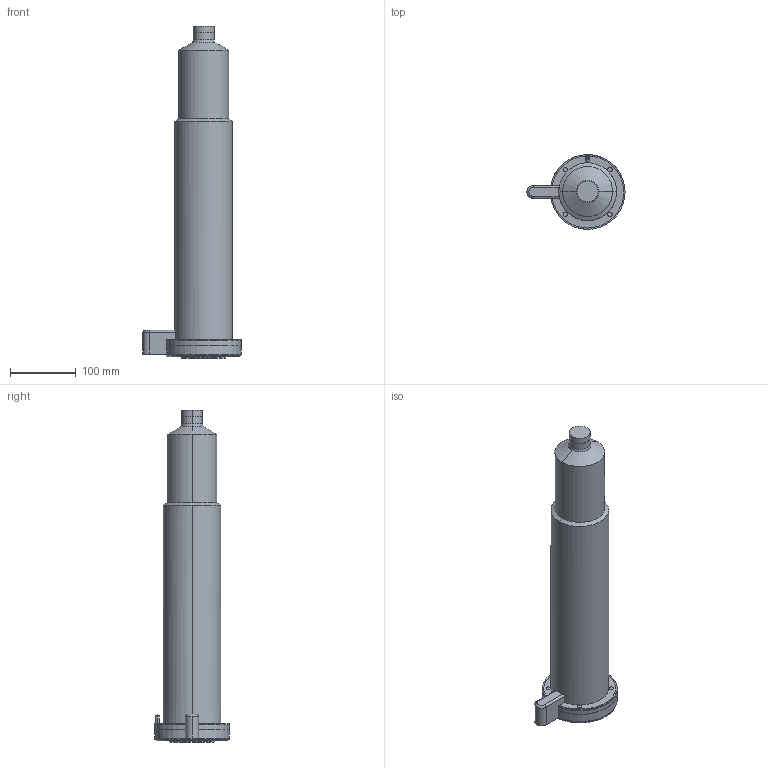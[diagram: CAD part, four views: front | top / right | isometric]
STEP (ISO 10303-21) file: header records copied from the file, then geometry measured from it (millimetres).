
FILE_DESCRIPTION (( 'STEP AP214' ), '1' );
FILE_NAME ('SR24_CLOSED_500_HELICAL.STEP', '2009-05-07T18:28:43', ( 'Synventive Molding Solutions' ), ( 'Synventive Molding Solutions' ), 'SwSTEP 2.0', 'SolidWorks 2008', '' );
FILE_SCHEMA (( 'AUTOMOTIVE_DESIGN' ));
Length unit declared in the file: millimetre
Products named in the file (1): SR24_CLOSED_500_HELICAL
Bounding box: 149.5 x 114 x 506 mm (x, y, z)
Volume: 4337192.8 mm3; surface area: 318349.5 mm2
Topology: 2 solids, 4 shells, 395 faces, 1047 edges, 665 vertices
Faces by surface type: cylinder 161, plane 111, bspline 52, cone 38, torus 33
Entity records: 35379 total; most frequent: CARTESIAN_POINT 21873, ORIENTED_EDGE 2078, DIRECTION 1756, EDGE_CURVE 1039, AXIS2_PLACEMENT_3D 672, VERTEX_POINT 665, EDGE_LOOP 428, VECTOR 412
